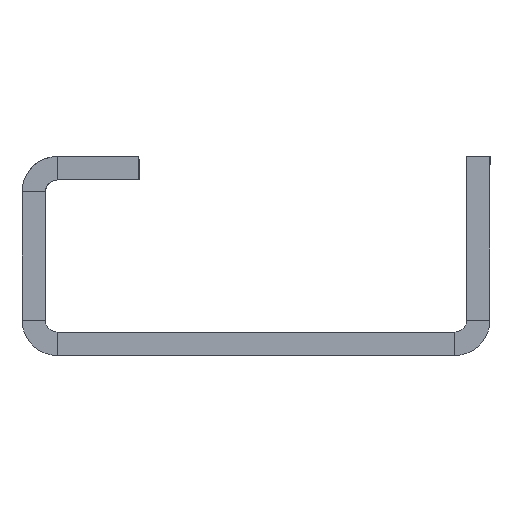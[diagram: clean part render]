
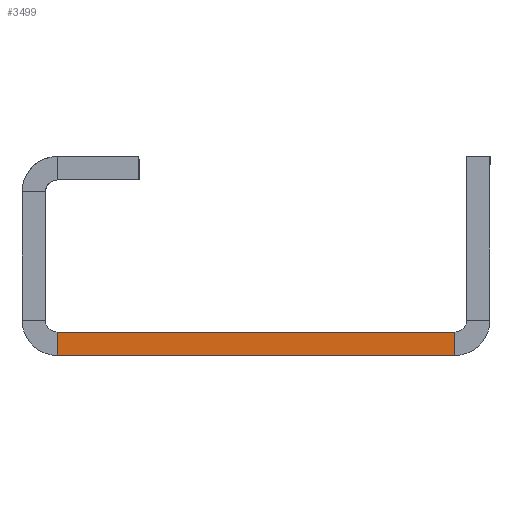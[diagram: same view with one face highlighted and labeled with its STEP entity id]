
A CAD part, left-side view. The second image highlights one B-rep face of the part: STEP entity #3499.
In plain terms, the highlighted planar face has unit normal (-1, 0, 0).
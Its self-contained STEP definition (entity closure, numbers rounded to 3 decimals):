
#767 = EDGE_CURVE ( 'NONE', #7703, #7162, #6268, .T. ) ;
#1011 = CARTESIAN_POINT ( 'NONE',  ( -400., 17., -2. ) ) ;
#1078 = VERTEX_POINT ( 'NONE', #5875 ) ;
#1354 = CARTESIAN_POINT ( 'NONE',  ( -400., 18., 0. ) ) ;
#1581 = FACE_OUTER_BOUND ( 'NONE', #4507, .T. ) ;
#1658 = EDGE_CURVE ( 'NONE', #7162, #1078, #3212, .T. ) ;
#1729 = EDGE_CURVE ( 'NONE', #2450, #1078, #3034, .T. ) ;
#2450 = VERTEX_POINT ( 'NONE', #6358 ) ;
#2681 = ORIENTED_EDGE ( 'NONE', *, *, #1729, .F. ) ;
#2797 = CARTESIAN_POINT ( 'NONE',  ( -400., 17., 0. ) ) ;
#2970 = VECTOR ( 'NONE', #2974, 1000. ) ;
#2974 = DIRECTION ( 'NONE',  ( 0., 0., -1. ) ) ;
#3034 = LINE ( 'NONE', #3073, #2970 ) ;
#3073 = CARTESIAN_POINT ( 'NONE',  ( -400., -17., 0. ) ) ;
#3196 = VECTOR ( 'NONE', #3599, 1000. ) ;
#3212 = LINE ( 'NONE', #3590, #3196 ) ;
#3244 = AXIS2_PLACEMENT_3D ( 'NONE', #4321, #4188, #4160 ) ;
#3499 = ADVANCED_FACE ( 'NONE', ( #1581 ), #4346, .T. ) ;
#3590 = CARTESIAN_POINT ( 'NONE',  ( -400., 18., -2. ) ) ;
#3599 = DIRECTION ( 'NONE',  ( 0., -1., 0. ) ) ;
#4074 = CARTESIAN_POINT ( 'NONE',  ( -400., 17., 0. ) ) ;
#4156 = DIRECTION ( 'NONE',  ( 0., 0., -1. ) ) ;
#4160 = DIRECTION ( 'NONE',  ( 0., 0., 1. ) ) ;
#4188 = DIRECTION ( 'NONE',  ( -1., 0., 0. ) ) ;
#4209 = ORIENTED_EDGE ( 'NONE', *, *, #5696, .F. ) ;
#4232 = LINE ( 'NONE', #1354, #6038 ) ;
#4321 = CARTESIAN_POINT ( 'NONE',  ( -400., 18., -2. ) ) ;
#4346 = PLANE ( 'NONE',  #3244 ) ;
#4507 = EDGE_LOOP ( 'NONE', ( #2681, #4209, #5661, #5806 ) ) ;
#5661 = ORIENTED_EDGE ( 'NONE', *, *, #767, .T. ) ;
#5696 = EDGE_CURVE ( 'NONE', #7703, #2450, #4232, .T. ) ;
#5806 = ORIENTED_EDGE ( 'NONE', *, *, #1658, .T. ) ;
#5875 = CARTESIAN_POINT ( 'NONE',  ( -400., -17., -2. ) ) ;
#6038 = VECTOR ( 'NONE', #7469, 1000. ) ;
#6258 = VECTOR ( 'NONE', #4156, 1000. ) ;
#6268 = LINE ( 'NONE', #4074, #6258 ) ;
#6358 = CARTESIAN_POINT ( 'NONE',  ( -400., -17., 0. ) ) ;
#7162 = VERTEX_POINT ( 'NONE', #1011 ) ;
#7469 = DIRECTION ( 'NONE',  ( 0., -1., 0. ) ) ;
#7703 = VERTEX_POINT ( 'NONE', #2797 ) ;
